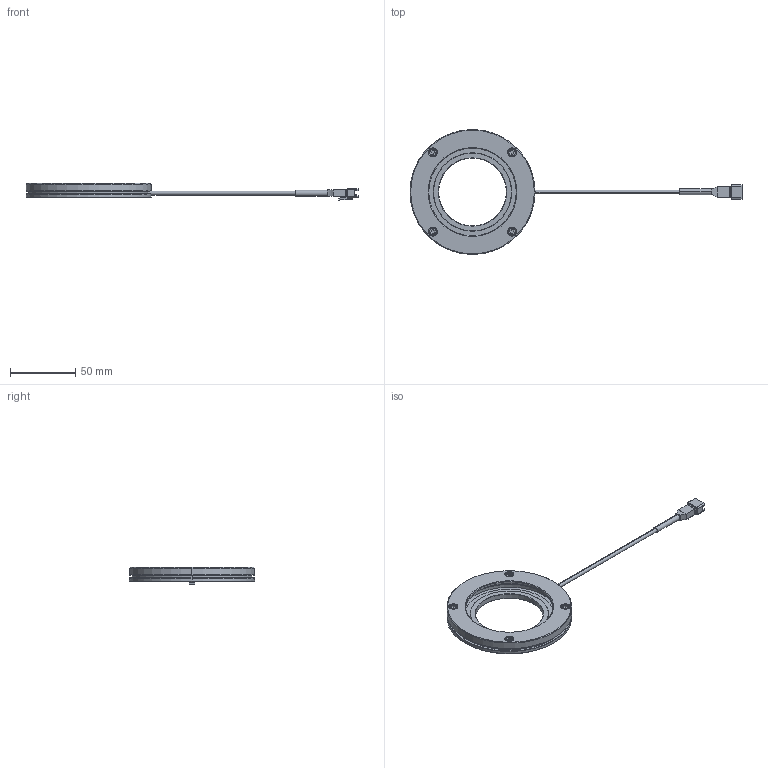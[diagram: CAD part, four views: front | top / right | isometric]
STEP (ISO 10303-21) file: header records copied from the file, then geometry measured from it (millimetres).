
FILE_DESCRIPTION(('STEP AP214'),'1');
FILE_NAME('VHR-9652_DRAWING_3D.step','2023-10-03T02:02:17',(' '),(' '),'Spatial InterOp 3D',' ',' ');
FILE_SCHEMA(('AUTOMOTIVE_DESIGN { 1 0 10303 214 1 1 1 1 }'));
Length unit declared in the file: millimetre
Products named in the file (5): LENS COVER LEVEL0 20200120; SIDE LIGHT BASE LEVEL0 20200121; ______ __________ M3 x 5; SM 2.5 CABLE 2P
Assembly tree (7 placements, depth 2):
  (unnamed)
    LENS COVER LEVEL0 20200120
    SIDE LIGHT BASE LEVEL0 20200121
    ______ __________ M3 x 5  x4
    SM 2.5 CABLE 2P
Bounding box: 254.96 x 96 x 13.25 mm (x, y, z)
Volume: 38899.1 mm3; surface area: 28034 mm2
Topology: 8 solids, 8 shells, 404 faces, 950 edges, 599 vertices
Faces by surface type: plane 220, cylinder 125, cone 32, torus 22, bspline 5
Entity records: 12708 total; most frequent: CARTESIAN_POINT 2268, DIRECTION 1630, ORIENTED_EDGE 1576, EDGE_CURVE 788, AXIS2_PLACEMENT_3D 561, LINE 508, VECTOR 508, VERTEX_POINT 503
